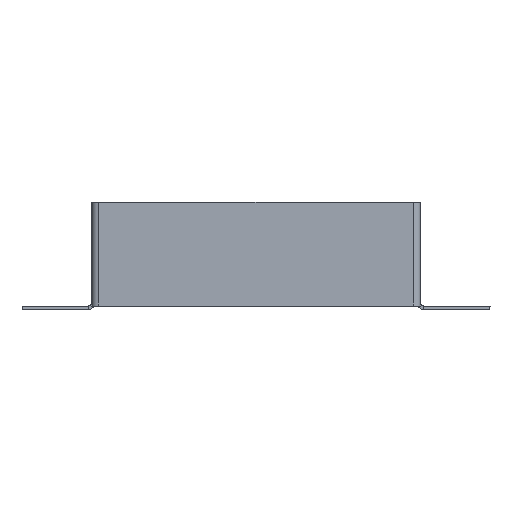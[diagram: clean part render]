
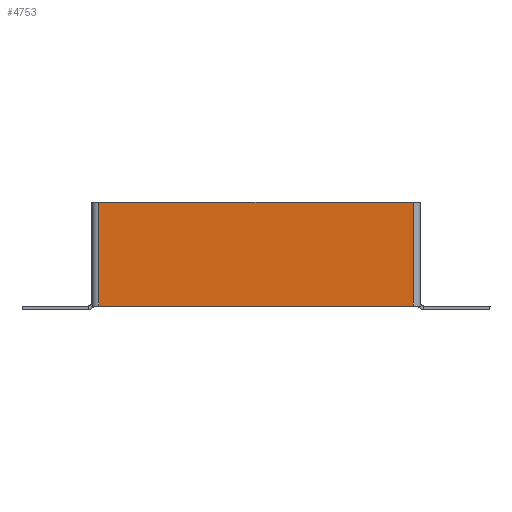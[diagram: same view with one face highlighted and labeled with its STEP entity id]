
A CAD part, front view. The second image highlights one B-rep face of the part: STEP entity #4753.
In plain terms, the highlighted planar face has unit normal (0, -1, 0).
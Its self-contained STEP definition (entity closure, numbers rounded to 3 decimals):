
#277 = ORIENTED_EDGE ( 'NONE', *, *, #4896, .F. ) ;
#291 = AXIS2_PLACEMENT_3D ( 'NONE', #5190, #2527, #926 ) ;
#535 = VECTOR ( 'NONE', #1004, 1000. ) ;
#539 = VERTEX_POINT ( 'NONE', #5038 ) ;
#591 = ORIENTED_EDGE ( 'NONE', *, *, #1186, .T. ) ;
#804 = DIRECTION ( 'NONE',  ( -1., 0., 0. ) ) ;
#926 = DIRECTION ( 'NONE',  ( 0., 0., 1. ) ) ;
#1004 = DIRECTION ( 'NONE',  ( 0., 0., -1. ) ) ;
#1092 = CARTESIAN_POINT ( 'NONE',  ( 88., -2., 0. ) ) ;
#1171 = VERTEX_POINT ( 'NONE', #1092 ) ;
#1186 = EDGE_CURVE ( 'NONE', #3666, #1171, #4364, .T. ) ;
#1402 = VERTEX_POINT ( 'NONE', #4901 ) ;
#1460 = LINE ( 'NONE', #3472, #6064 ) ;
#1701 = CARTESIAN_POINT ( 'NONE',  ( 88., -2., -58. ) ) ;
#1918 = EDGE_CURVE ( 'NONE', #1402, #539, #4506, .T. ) ;
#2149 = CARTESIAN_POINT ( 'NONE',  ( -88., -2., 0. ) ) ;
#2403 = VECTOR ( 'NONE', #6274, 1000. ) ;
#2527 = DIRECTION ( 'NONE',  ( 0., 1., 0. ) ) ;
#3126 = CARTESIAN_POINT ( 'NONE',  ( -90., -2., 0. ) ) ;
#3472 = CARTESIAN_POINT ( 'NONE',  ( -90., -2., -58. ) ) ;
#3567 = EDGE_LOOP ( 'NONE', ( #6394, #4266, #591, #277 ) ) ;
#3617 = FACE_OUTER_BOUND ( 'NONE', #3567, .T. ) ;
#3666 = VERTEX_POINT ( 'NONE', #5759 ) ;
#4266 = ORIENTED_EDGE ( 'NONE', *, *, #4280, .F. ) ;
#4280 = EDGE_CURVE ( 'NONE', #3666, #539, #1460, .T. ) ;
#4364 = LINE ( 'NONE', #1701, #4441 ) ;
#4441 = VECTOR ( 'NONE', #5385, 1000. ) ;
#4506 = LINE ( 'NONE', #2149, #535 ) ;
#4753 = ADVANCED_FACE ( 'NONE', ( #3617 ), #6676, .F. ) ;
#4785 = LINE ( 'NONE', #3126, #2403 ) ;
#4896 = EDGE_CURVE ( 'NONE', #1402, #1171, #4785, .T. ) ;
#4901 = CARTESIAN_POINT ( 'NONE',  ( -88., -2., 0. ) ) ;
#5038 = CARTESIAN_POINT ( 'NONE',  ( -88., -2., -58. ) ) ;
#5190 = CARTESIAN_POINT ( 'NONE',  ( 0., -2., 0. ) ) ;
#5385 = DIRECTION ( 'NONE',  ( 0., 0., 1. ) ) ;
#5759 = CARTESIAN_POINT ( 'NONE',  ( 88., -2., -58. ) ) ;
#6064 = VECTOR ( 'NONE', #804, 1000. ) ;
#6274 = DIRECTION ( 'NONE',  ( 1., 0., 0. ) ) ;
#6394 = ORIENTED_EDGE ( 'NONE', *, *, #1918, .T. ) ;
#6676 = PLANE ( 'NONE',  #291 ) ;
